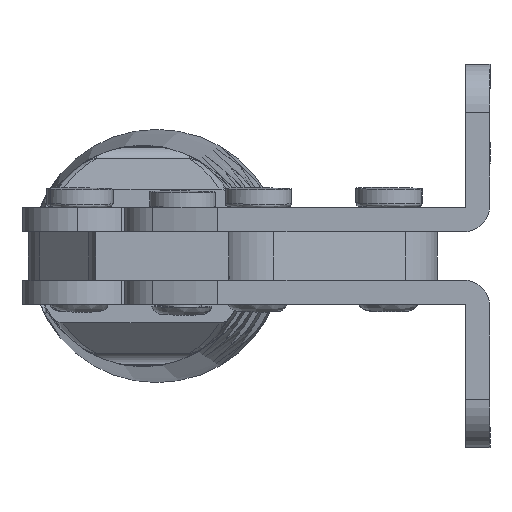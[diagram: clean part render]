
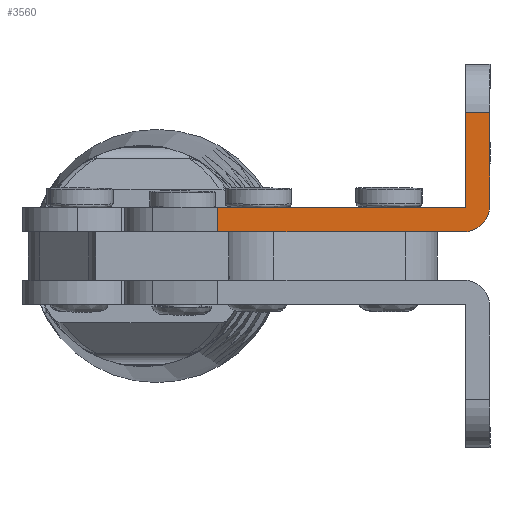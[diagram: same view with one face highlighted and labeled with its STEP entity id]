
A CAD part, left-side view. The second image highlights one B-rep face of the part: STEP entity #3560.
In plain terms, the highlighted planar face has unit normal (-1, 0, 0).
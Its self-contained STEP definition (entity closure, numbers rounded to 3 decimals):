
#586 = DIRECTION ( 'NONE',  ( 0., 0., 1. ) ) ;
#755 = CARTESIAN_POINT ( 'NONE',  ( -19.559, -18.184, 2. ) ) ;
#985 = CARTESIAN_POINT ( 'NONE',  ( -19.559, -20.384, 9.9 ) ) ;
#1069 = ORIENTED_EDGE ( 'NONE', *, *, #15239, .F. ) ;
#1137 = AXIS2_PLACEMENT_3D ( 'NONE', #17888, #17786, #11694 ) ;
#1299 = FACE_OUTER_BOUND ( 'NONE', #3161, .T. ) ;
#1396 = CARTESIAN_POINT ( 'NONE',  ( -19.559, 2.163, 2. ) ) ;
#1441 = DIRECTION ( 'NONE',  ( 0., -1., 0. ) ) ;
#1842 = AXIS2_PLACEMENT_3D ( 'NONE', #8352, #11331, #11614 ) ;
#2237 = CARTESIAN_POINT ( 'NONE',  ( -19.559, -20.384, 0. ) ) ;
#2408 = DIRECTION ( 'NONE',  ( 0., 1., 0. ) ) ;
#2534 = CARTESIAN_POINT ( 'NONE',  ( -19.559, -20.384, 9.9 ) ) ;
#2729 = EDGE_CURVE ( 'NONE', #6626, #17265, #6305, .T. ) ;
#3161 = EDGE_LOOP ( 'NONE', ( #1069, #14280, #17656, #4438, #17657, #18082, #18633, #16503 ) ) ;
#3316 = CARTESIAN_POINT ( 'NONE',  ( -19.559, -18.184, 2.2 ) ) ;
#3376 = VECTOR ( 'NONE', #1441, 1000. ) ;
#3560 = ADVANCED_FACE ( 'NONE', ( #1299 ), #5719, .F. ) ;
#3941 = LINE ( 'NONE', #11652, #16012 ) ;
#4142 = VERTEX_POINT ( 'NONE', #755 ) ;
#4385 = VERTEX_POINT ( 'NONE', #14297 ) ;
#4438 = ORIENTED_EDGE ( 'NONE', *, *, #6551, .F. ) ;
#5719 = PLANE ( 'NONE',  #1842 ) ;
#6045 = VECTOR ( 'NONE', #586, 1000. ) ;
#6305 = LINE ( 'NONE', #2237, #17871 ) ;
#6332 = VERTEX_POINT ( 'NONE', #18625 ) ;
#6551 = EDGE_CURVE ( 'NONE', #6626, #13999, #18762, .T. ) ;
#6626 = VERTEX_POINT ( 'NONE', #18866 ) ;
#7954 = DIRECTION ( 'NONE',  ( 0., 0., 1. ) ) ;
#8135 = LINE ( 'NONE', #10638, #6045 ) ;
#8352 = CARTESIAN_POINT ( 'NONE',  ( -19.559, 2.163, 2. ) ) ;
#8738 = LINE ( 'NONE', #1396, #16096 ) ;
#8851 = CIRCLE ( 'NONE', #1137, 0.2 ) ;
#9795 = CARTESIAN_POINT ( 'NONE',  ( -19.559, 2.163, 0. ) ) ;
#9813 = EDGE_CURVE ( 'NONE', #13999, #10181, #3941, .T. ) ;
#9878 = LINE ( 'NONE', #2534, #3376 ) ;
#10164 = VECTOR ( 'NONE', #7954, 1000. ) ;
#10181 = VERTEX_POINT ( 'NONE', #9795 ) ;
#10638 = CARTESIAN_POINT ( 'NONE',  ( -19.559, -18.384, 2. ) ) ;
#10736 = DIRECTION ( 'NONE',  ( 0., 0., 1. ) ) ;
#11331 = DIRECTION ( 'NONE',  ( 1., 0., 0. ) ) ;
#11614 = DIRECTION ( 'NONE',  ( 0., 1., 0. ) ) ;
#11652 = CARTESIAN_POINT ( 'NONE',  ( -19.559, -14.582, 0. ) ) ;
#11694 = DIRECTION ( 'NONE',  ( 0., 0., -1. ) ) ;
#12419 = EDGE_CURVE ( 'NONE', #10181, #4385, #18683, .T. ) ;
#12516 = EDGE_CURVE ( 'NONE', #6332, #17265, #9878, .T. ) ;
#13999 = VERTEX_POINT ( 'NONE', #14635 ) ;
#14280 = ORIENTED_EDGE ( 'NONE', *, *, #12419, .F. ) ;
#14297 = CARTESIAN_POINT ( 'NONE',  ( -19.559, 2.163, 2. ) ) ;
#14372 = VERTEX_POINT ( 'NONE', #16944 ) ;
#14635 = CARTESIAN_POINT ( 'NONE',  ( -19.559, -18.184, 0. ) ) ;
#14832 = DIRECTION ( 'NONE',  ( 0., 0., -1. ) ) ;
#15239 = EDGE_CURVE ( 'NONE', #4385, #4142, #8738, .T. ) ;
#15361 = AXIS2_PLACEMENT_3D ( 'NONE', #3316, #16567, #14832 ) ;
#15689 = CARTESIAN_POINT ( 'NONE',  ( -19.559, 2.163, 2. ) ) ;
#16012 = VECTOR ( 'NONE', #2408, 1000. ) ;
#16096 = VECTOR ( 'NONE', #16278, 1000. ) ;
#16278 = DIRECTION ( 'NONE',  ( 0., -1., 0. ) ) ;
#16503 = ORIENTED_EDGE ( 'NONE', *, *, #18698, .T. ) ;
#16567 = DIRECTION ( 'NONE',  ( 1., 0., 0. ) ) ;
#16944 = CARTESIAN_POINT ( 'NONE',  ( -19.559, -18.384, 2.2 ) ) ;
#17197 = EDGE_CURVE ( 'NONE', #14372, #6332, #8135, .T. ) ;
#17265 = VERTEX_POINT ( 'NONE', #985 ) ;
#17656 = ORIENTED_EDGE ( 'NONE', *, *, #9813, .F. ) ;
#17657 = ORIENTED_EDGE ( 'NONE', *, *, #2729, .T. ) ;
#17786 = DIRECTION ( 'NONE',  ( 1., 0., 0. ) ) ;
#17871 = VECTOR ( 'NONE', #10736, 1000. ) ;
#17888 = CARTESIAN_POINT ( 'NONE',  ( -19.559, -18.184, 2.2 ) ) ;
#18082 = ORIENTED_EDGE ( 'NONE', *, *, #12516, .F. ) ;
#18625 = CARTESIAN_POINT ( 'NONE',  ( -19.559, -18.384, 9.9 ) ) ;
#18633 = ORIENTED_EDGE ( 'NONE', *, *, #17197, .F. ) ;
#18683 = LINE ( 'NONE', #15689, #10164 ) ;
#18698 = EDGE_CURVE ( 'NONE', #14372, #4142, #8851, .T. ) ;
#18762 = CIRCLE ( 'NONE', #15361, 2.2 ) ;
#18866 = CARTESIAN_POINT ( 'NONE',  ( -19.559, -20.384, 2.2 ) ) ;
